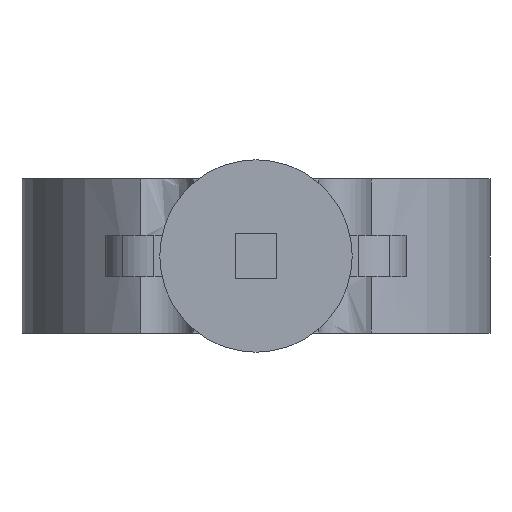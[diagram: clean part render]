
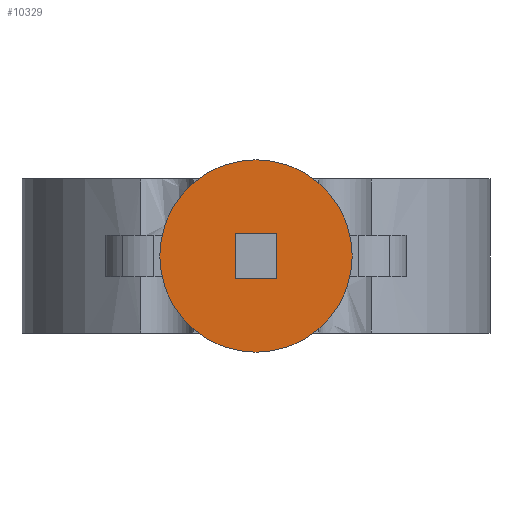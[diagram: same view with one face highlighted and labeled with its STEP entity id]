
A CAD part, front view. The second image highlights one B-rep face of the part: STEP entity #10329.
In plain terms, the highlighted planar face has unit normal (0, -1, 0).
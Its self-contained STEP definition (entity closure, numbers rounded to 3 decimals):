
#10241=CARTESIAN_POINT('',(32.5,-167.5,26.));
#10242=VERTEX_POINT('',#10241);
#10258=CARTESIAN_POINT('',(-32.5,-167.5,26.));
#10259=VERTEX_POINT('',#10258);
#10266=CARTESIAN_POINT('',(0.,-167.5,26.));
#10267=DIRECTION('',(0.0,1.0,0.0));
#10268=DIRECTION('',(-1.0,0.0,0.0));
#10269=AXIS2_PLACEMENT_3D('',#10266,#10267,#10268);
#10270=CIRCLE('',#10269,32.5);
#10271=EDGE_CURVE('',#10259,#10242,#10270,.T.);
#10298=CARTESIAN_POINT('',(0.,-167.5,-6.5));
#10299=VERTEX_POINT('',#10298);
#10300=CARTESIAN_POINT('',(0.,-167.5,26.));
#10301=DIRECTION('',(0.0,1.0,0.0));
#10302=DIRECTION('',(-1.0,0.0,0.0));
#10303=AXIS2_PLACEMENT_3D('',#10300,#10301,#10302);
#10304=CIRCLE('',#10303,32.5);
#10305=EDGE_CURVE('',#10242,#10299,#10304,.T.);
#10307=CARTESIAN_POINT('',(0.,-167.5,26.));
#10308=DIRECTION('',(0.0,1.0,0.0));
#10309=DIRECTION('',(-1.0,0.0,0.0));
#10310=AXIS2_PLACEMENT_3D('',#10307,#10308,#10309);
#10311=CIRCLE('',#10310,32.5);
#10312=EDGE_CURVE('',#10299,#10259,#10311,.T.);
#10319=CARTESIAN_POINT('',(3.11,-167.5,26.));
#10320=DIRECTION('',(0.0,-1.0,0.0));
#10321=DIRECTION('',(0.0,0.0,-1.0));
#10322=AXIS2_PLACEMENT_3D('',#10319,#10320,#10321);
#10323=PLANE('',#10322);
#10324=ORIENTED_EDGE('',*,*,#10312,.F.);
#10325=ORIENTED_EDGE('',*,*,#10305,.F.);
#10326=ORIENTED_EDGE('',*,*,#10271,.F.);
#10327=EDGE_LOOP('',(#10324,#10325,#10326));
#10328=FACE_OUTER_BOUND('',#10327,.T.);
#10329=ADVANCED_FACE('',(#10328),#10323,.T.);
